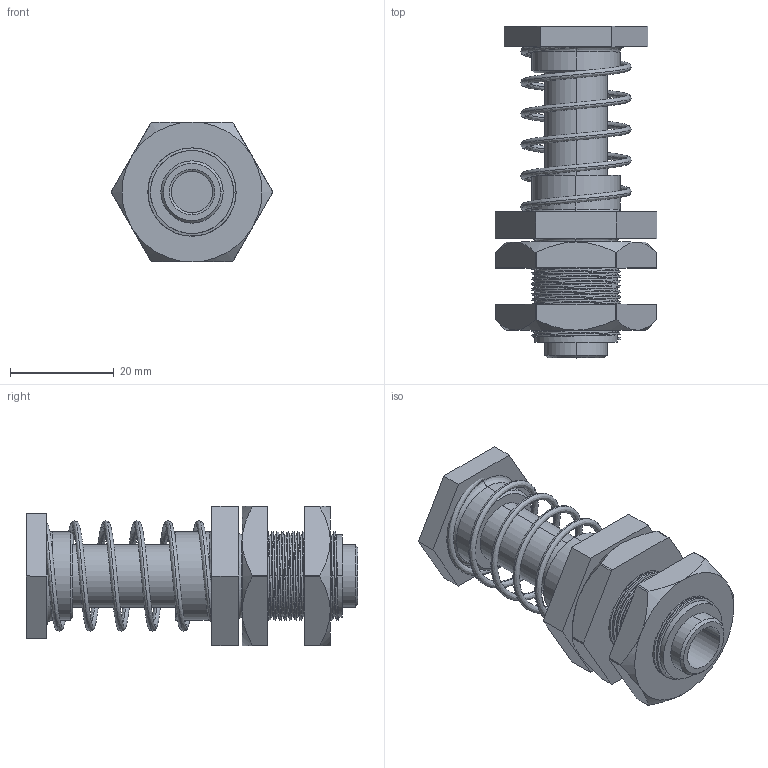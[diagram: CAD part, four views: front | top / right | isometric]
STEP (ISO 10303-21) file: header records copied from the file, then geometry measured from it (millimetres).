
FILE_DESCRIPTION (( 'STEP AP214' ), '1' );
FILE_NAME ('VFL-20M17-G18.STEP', '2019-11-15T09:02:44', ( '微软用户' ), ( '微软中国' ), 'SwSTEP 2.0', 'SolidWorks 2016', '' );
FILE_SCHEMA (( 'AUTOMOTIVE_DESIGN' ));
Length unit declared in the file: millimetre
Products named in the file (1): VFL-20M17-G18
Bounding box: 31.18 x 64 x 27 mm (x, y, z)
Volume: 16004.2 mm3; surface area: 14792.3 mm2
Topology: 6 solids, 6 shells, 144 faces, 362 edges, 234 vertices
Faces by surface type: cylinder 71, plane 42, cone 20, bspline 11
Entity records: 10790 total; most frequent: CARTESIAN_POINT 5920, ORIENTED_EDGE 724, DIRECTION 616, EDGE_CURVE 362, AXIS2_PLACEMENT_3D 234, VERTEX_POINT 234, EDGE_LOOP 156, UNCERTAINTY_MEASURE_WITH_UNIT 152
